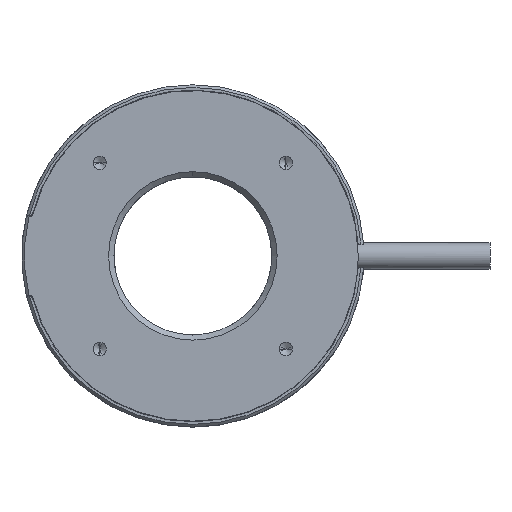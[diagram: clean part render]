
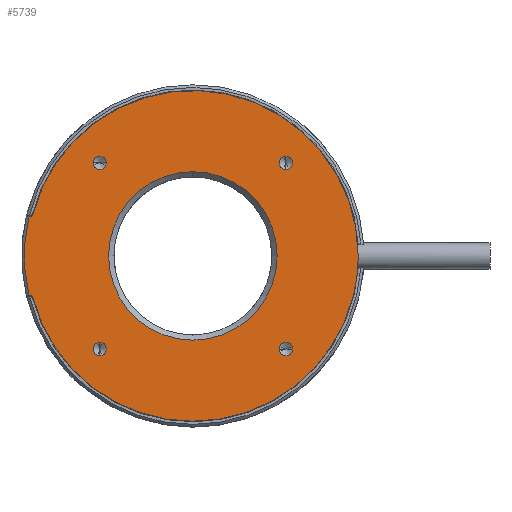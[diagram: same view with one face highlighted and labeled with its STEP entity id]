
A CAD part, top view. The second image highlights one B-rep face of the part: STEP entity #5739.
In plain terms, the highlighted planar face has unit normal (0, 0, 1).
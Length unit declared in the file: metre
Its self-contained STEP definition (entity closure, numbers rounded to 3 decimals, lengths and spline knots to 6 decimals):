
#537=DIRECTION('',(1.,0.,0.));
#538=VECTOR('',#537,0.000228);
#539=CARTESIAN_POINT('',(-0.031109,-0.0075,0.002));
#540=LINE('',#539,#538);
#564=DIRECTION('',(-1.,0.,0.));
#565=VECTOR('',#564,0.000228);
#566=CARTESIAN_POINT('',(-0.030881,0.0075,0.002));
#567=LINE('',#566,#565);
#677=CARTESIAN_POINT('',(-0.030881,0.008,0.002));
#678=DIRECTION('',(0.,0.,1.));
#679=DIRECTION('',(0.,-1.,0.));
#680=AXIS2_PLACEMENT_3D('',#677,#678,#679);
#682=CARTESIAN_POINT('',(0.,0.,0.002));
#683=DIRECTION('',(0.,0.,-1.));
#684=DIRECTION('',(-0.968,0.251,0.));
#685=AXIS2_PLACEMENT_3D('',#682,#683,#684);
#687=CARTESIAN_POINT('',(0.,0.,0.002));
#688=DIRECTION('',(0.,0.,-1.));
#689=DIRECTION('',(1.,0.,0.));
#690=AXIS2_PLACEMENT_3D('',#687,#688,#689);
#692=CARTESIAN_POINT('',(0.,0.,0.002));
#693=DIRECTION('',(0.,0.,-1.));
#694=DIRECTION('',(0.968,-0.251,0.));
#695=AXIS2_PLACEMENT_3D('',#692,#693,#694);
#697=CARTESIAN_POINT('',(-0.030881,-0.008,0.002));
#698=DIRECTION('',(0.,0.,1.));
#699=DIRECTION('',(0.968,0.251,0.));
#700=AXIS2_PLACEMENT_3D('',#697,#698,#699);
#702=CARTESIAN_POINT('',(0.,0.,0.002));
#703=DIRECTION('',(0.,0.,-1.));
#704=DIRECTION('',(-0.972,-0.234,0.));
#705=AXIS2_PLACEMENT_3D('',#702,#703,#704);
#707=CARTESIAN_POINT('',(0.017678,0.017678,0.002));
#708=DIRECTION('',(0.,0.,1.));
#709=DIRECTION('',(0.,-1.,0.));
#710=AXIS2_PLACEMENT_3D('',#707,#708,#709);
#712=CARTESIAN_POINT('',(0.017678,0.017678,0.002));
#713=DIRECTION('',(0.,0.,1.));
#714=DIRECTION('',(0.,1.,0.));
#715=AXIS2_PLACEMENT_3D('',#712,#713,#714);
#717=CARTESIAN_POINT('',(-0.017678,0.017678,0.002));
#718=DIRECTION('',(0.,0.,1.));
#719=DIRECTION('',(1.,0.,0.));
#720=AXIS2_PLACEMENT_3D('',#717,#718,#719);
#722=CARTESIAN_POINT('',(-0.017678,0.017678,0.002));
#723=DIRECTION('',(0.,0.,1.));
#724=DIRECTION('',(-1.,0.,0.));
#725=AXIS2_PLACEMENT_3D('',#722,#723,#724);
#727=CARTESIAN_POINT('',(-0.017678,-0.017678,0.002));
#728=DIRECTION('',(0.,0.,1.));
#729=DIRECTION('',(0.,1.,0.));
#730=AXIS2_PLACEMENT_3D('',#727,#728,#729);
#732=CARTESIAN_POINT('',(-0.017678,-0.017678,0.002));
#733=DIRECTION('',(0.,0.,1.));
#734=DIRECTION('',(0.,-1.,0.));
#735=AXIS2_PLACEMENT_3D('',#732,#733,#734);
#737=CARTESIAN_POINT('',(0.017678,-0.017678,0.002));
#738=DIRECTION('',(0.,0.,1.));
#739=DIRECTION('',(-1.,0.,0.));
#740=AXIS2_PLACEMENT_3D('',#737,#738,#739);
#742=CARTESIAN_POINT('',(0.017678,-0.017678,0.002));
#743=DIRECTION('',(0.,0.,1.));
#744=DIRECTION('',(1.,0.,0.));
#745=AXIS2_PLACEMENT_3D('',#742,#743,#744);
#747=CARTESIAN_POINT('',(0.,0.,0.002));
#748=DIRECTION('',(0.,0.,1.));
#749=DIRECTION('',(0.,1.,0.));
#750=AXIS2_PLACEMENT_3D('',#747,#748,#749);
#752=CARTESIAN_POINT('',(0.,0.,0.002));
#753=DIRECTION('',(0.,0.,1.));
#754=DIRECTION('',(0.,-1.,0.));
#755=AXIS2_PLACEMENT_3D('',#752,#753,#754);
#4313=CARTESIAN_POINT('',(0.,-0.016,0.002));
#4314=VERTEX_POINT('',#4313);
#4315=CARTESIAN_POINT('',(0.,0.016,0.002));
#4316=VERTEX_POINT('',#4315);
#4317=CARTESIAN_POINT('',(-0.030881,0.0075,0.002));
#4318=CARTESIAN_POINT('',(-0.030397,0.007875,0.002));
#4319=VERTEX_POINT('',#4317);
#4320=VERTEX_POINT('',#4318);
#4321=CARTESIAN_POINT('',(0.0314,0.,0.002));
#4322=VERTEX_POINT('',#4321);
#4323=CARTESIAN_POINT('',(0.030397,-0.007875,0.002));
#4324=VERTEX_POINT('',#4323);
#4325=CARTESIAN_POINT('',(-0.030397,-0.007875,0.002));
#4326=VERTEX_POINT('',#4325);
#4327=CARTESIAN_POINT('',(-0.030881,-0.0075,0.002));
#4328=VERTEX_POINT('',#4327);
#4329=CARTESIAN_POINT('',(-0.031109,-0.0075,0.002));
#4330=VERTEX_POINT('',#4329);
#4331=CARTESIAN_POINT('',(-0.031109,0.0075,0.002));
#4332=VERTEX_POINT('',#4331);
#4333=CARTESIAN_POINT('',(0.017678,0.016428,0.002));
#4334=CARTESIAN_POINT('',(0.017678,0.018928,0.002));
#4335=VERTEX_POINT('',#4333);
#4336=VERTEX_POINT('',#4334);
#4337=CARTESIAN_POINT('',(-0.016428,0.017678,0.002));
#4338=CARTESIAN_POINT('',(-0.018928,0.017678,0.002));
#4339=VERTEX_POINT('',#4337);
#4340=VERTEX_POINT('',#4338);
#4341=CARTESIAN_POINT('',(-0.017678,-0.016428,0.002));
#4342=CARTESIAN_POINT('',(-0.017678,-0.018928,0.002));
#4343=VERTEX_POINT('',#4341);
#4344=VERTEX_POINT('',#4342);
#4345=CARTESIAN_POINT('',(0.016428,-0.017678,0.002));
#4346=CARTESIAN_POINT('',(0.018928,-0.017678,0.002));
#4347=VERTEX_POINT('',#4345);
#4348=VERTEX_POINT('',#4346);
#5690=CARTESIAN_POINT('',(0.,0.,0.002));
#5691=DIRECTION('',(0.,0.,-1.));
#5692=DIRECTION('',(0.,1.,0.));
#5693=AXIS2_PLACEMENT_3D('',#5690,#5691,#5692);
#5694=PLANE('',#5693);
#5695=ORIENTED_EDGE('',*,*,#5681,.T.);
#5697=ORIENTED_EDGE('',*,*,#5696,.T.);
#5699=ORIENTED_EDGE('',*,*,#5698,.T.);
#5701=ORIENTED_EDGE('',*,*,#5700,.T.);
#5703=ORIENTED_EDGE('',*,*,#5702,.T.);
#5704=ORIENTED_EDGE('',*,*,#5525,.F.);
#5705=ORIENTED_EDGE('',*,*,#5541,.T.);
#5706=ORIENTED_EDGE('',*,*,#5557,.F.);
#5707=EDGE_LOOP('',(#5695,#5697,#5699,#5701,#5703,#5704,#5705,#5706));
#5708=FACE_OUTER_BOUND('',#5707,.F.);
#5710=ORIENTED_EDGE('',*,*,#5709,.T.);
#5712=ORIENTED_EDGE('',*,*,#5711,.T.);
#5713=EDGE_LOOP('',(#5710,#5712));
#5714=FACE_BOUND('',#5713,.F.);
#5716=ORIENTED_EDGE('',*,*,#5715,.T.);
#5718=ORIENTED_EDGE('',*,*,#5717,.T.);
#5719=EDGE_LOOP('',(#5716,#5718));
#5720=FACE_BOUND('',#5719,.F.);
#5722=ORIENTED_EDGE('',*,*,#5721,.T.);
#5724=ORIENTED_EDGE('',*,*,#5723,.T.);
#5725=EDGE_LOOP('',(#5722,#5724));
#5726=FACE_BOUND('',#5725,.F.);
#5728=ORIENTED_EDGE('',*,*,#5727,.T.);
#5730=ORIENTED_EDGE('',*,*,#5729,.T.);
#5731=EDGE_LOOP('',(#5728,#5730));
#5732=FACE_BOUND('',#5731,.F.);
#5734=ORIENTED_EDGE('',*,*,#5733,.T.);
#5736=ORIENTED_EDGE('',*,*,#5735,.T.);
#5737=EDGE_LOOP('',(#5734,#5736));
#5738=FACE_BOUND('',#5737,.F.);
#5739=ADVANCED_FACE('',(#5708,#5714,#5720,#5726,#5732,#5738),#5694,.F.);
#681=CIRCLE('',#680,0.0005);
#686=CIRCLE('',#685,0.0314);
#691=CIRCLE('',#690,0.0314);
#696=CIRCLE('',#695,0.0314);
#701=CIRCLE('',#700,0.0005);
#706=CIRCLE('',#705,0.032);
#711=CIRCLE('',#710,0.00125);
#716=CIRCLE('',#715,0.00125);
#721=CIRCLE('',#720,0.00125);
#726=CIRCLE('',#725,0.00125);
#731=CIRCLE('',#730,0.00125);
#736=CIRCLE('',#735,0.00125);
#741=CIRCLE('',#740,0.00125);
#746=CIRCLE('',#745,0.00125);
#751=CIRCLE('',#750,0.016);
#756=CIRCLE('',#755,0.016);
#5525=EDGE_CURVE('',#4330,#4328,#540,.T.);
#5541=EDGE_CURVE('',#4330,#4332,#706,.T.);
#5557=EDGE_CURVE('',#4319,#4332,#567,.T.);
#5681=EDGE_CURVE('',#4319,#4320,#681,.T.);
#5696=EDGE_CURVE('',#4320,#4322,#686,.T.);
#5698=EDGE_CURVE('',#4322,#4324,#691,.T.);
#5700=EDGE_CURVE('',#4324,#4326,#696,.T.);
#5702=EDGE_CURVE('',#4326,#4328,#701,.T.);
#5709=EDGE_CURVE('',#4335,#4336,#711,.T.);
#5711=EDGE_CURVE('',#4336,#4335,#716,.T.);
#5715=EDGE_CURVE('',#4339,#4340,#721,.T.);
#5717=EDGE_CURVE('',#4340,#4339,#726,.T.);
#5721=EDGE_CURVE('',#4343,#4344,#731,.T.);
#5723=EDGE_CURVE('',#4344,#4343,#736,.T.);
#5727=EDGE_CURVE('',#4347,#4348,#741,.T.);
#5729=EDGE_CURVE('',#4348,#4347,#746,.T.);
#5733=EDGE_CURVE('',#4316,#4314,#751,.T.);
#5735=EDGE_CURVE('',#4314,#4316,#756,.T.);
